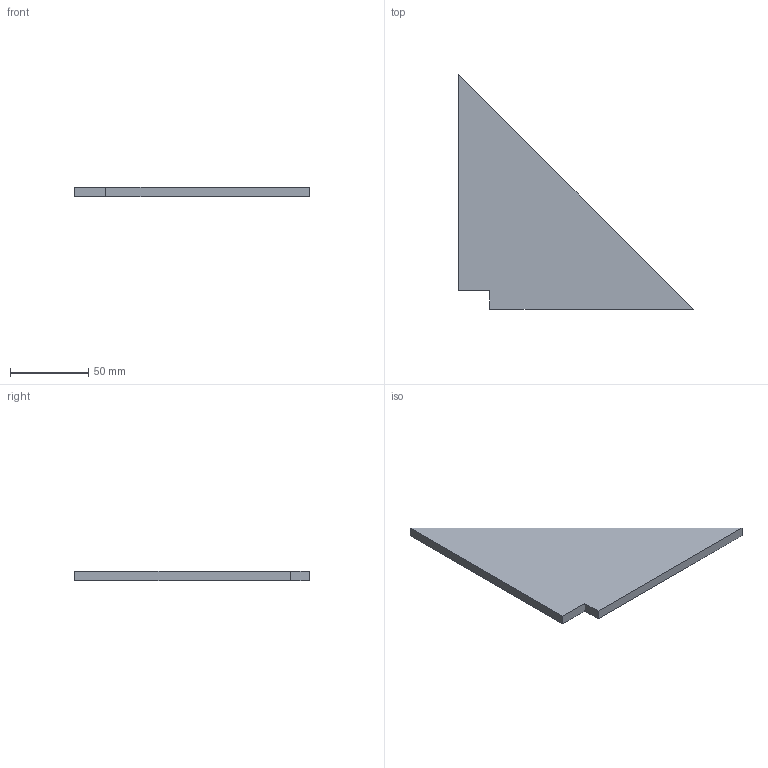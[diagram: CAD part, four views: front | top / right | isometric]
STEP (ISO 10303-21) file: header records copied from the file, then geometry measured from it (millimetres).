
FILE_DESCRIPTION(('Open CASCADE Model'),'2;1');
FILE_NAME('Open CASCADE Shape Model','2026-10-15T15:10:04',('Author'),( 'Open CASCADE'),'Open CASCADE STEP processor 8.0','Open CASCADE 8.0' ,'Unknown');
FILE_SCHEMA(('AUTOMOTIVE_DESIGN { 1 0 10303 214 1 1 1 1 }'));
Length unit declared in the file: millimetre
Products named in the file (1): P02_CARTELA_150x150x6_P05 70
Bounding box: 150 x 150 x 6 mm (x, y, z)
Volume: 66060 mm3; surface area: 25092.8 mm2
Topology: 1 solids, 1 shells, 7 faces, 15 edges, 10 vertices
Faces by surface type: plane 7
Entity records: 394 total; most frequent: CARTESIAN_POINT 63, DIRECTION 61, LINE 45, VECTOR 45, ORIENTED_EDGE 30, PCURVE 30, DEFINITIONAL_REPRESENTATION 30, EDGE_CURVE 15
